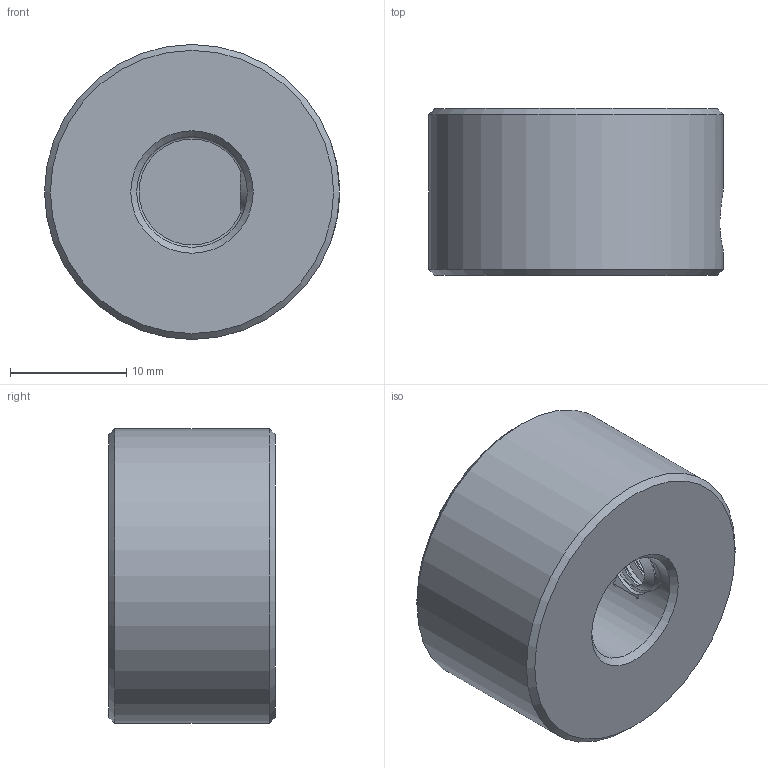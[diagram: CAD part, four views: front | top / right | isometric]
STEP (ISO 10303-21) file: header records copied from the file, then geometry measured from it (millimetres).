
FILE_DESCRIPTION(/* description */ (''),/* implementation_level */ '2;1');
FILE_NAME(/* name */ 'MAG-COL-0.375.step',/* time_stamp */ '2025-10-01T10:59:04-05:00',/* author */ (''),/* organization */ (''),/* preprocessor_version */ 'ST-DEVELOPER v20.1',/* originating_system */ 'Autodesk Translation Framework v14.17.0.0',/* authorisation */ '');
FILE_SCHEMA (('AUTOMOTIVE_DESIGN { 1 0 10303 214 3 1 1 }'));
Length unit declared in the file: millimetre
Products named in the file (4): MAG-COL-0.375; R1010D LARGE RING MAGNET; MAG-COLAR-0.375; 92311A532_18-8 Stainless Steel Cup-Point Set Screw (1)
Assembly tree (3 placements, depth 2):
  MAG-COL-0.375
    R1010D LARGE RING MAGNET
    MAG-COLAR-0.375
    92311A532_18-8 Stainless Steel Cup-Point Set Screw (1)
Bounding box: 25.4 x 14.35 x 25.4 mm (x, y, z)
Volume: 7196.5 mm3; surface area: 4753.3 mm2
Topology: 4 solids, 4 shells, 84 faces, 203 edges, 128 vertices
Faces by surface type: cylinder 31, plane 24, cone 16, torus 7, bspline 6
Full cylindrical faces by diameter (mm): 4.7 x2, 5.116 x3, 6.35 x4, 9.525 x1, 10.668 x1, 11.684 x1, 12.014 x1, 19.05 x1, 19.431 x1, 20.447 x1, 25.4 x1
Entity records: 4211 total; most frequent: CARTESIAN_POINT 2251, ORIENTED_EDGE 402, DIRECTION 354, EDGE_CURVE 201, AXIS2_PLACEMENT_3D 149, VERTEX_POINT 128, EDGE_LOOP 93, FACE_OUTER_BOUND 84
